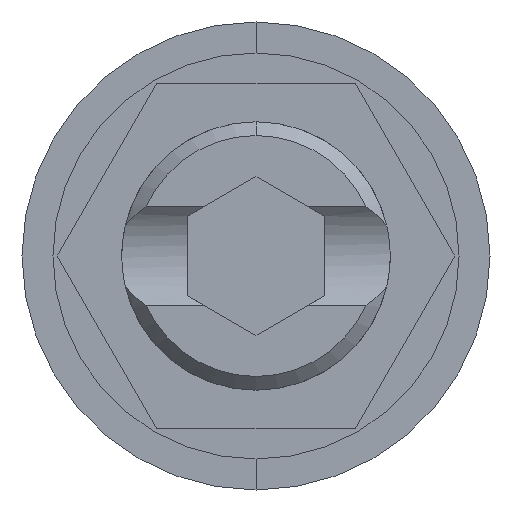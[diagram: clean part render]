
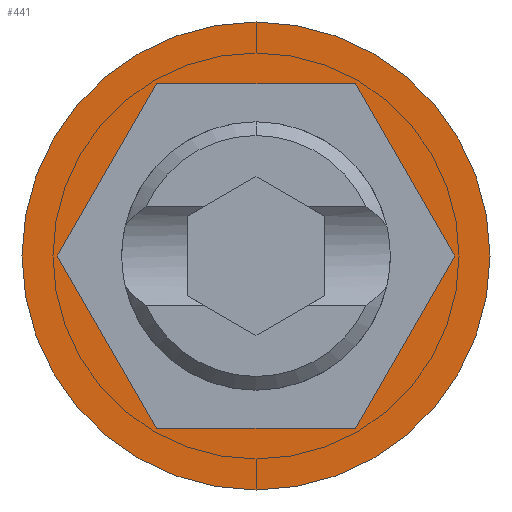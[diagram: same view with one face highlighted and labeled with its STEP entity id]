
A CAD part, front view. The second image highlights one B-rep face of the part: STEP entity #441.
In plain terms, the highlighted planar face has unit normal (0, -1, 0).
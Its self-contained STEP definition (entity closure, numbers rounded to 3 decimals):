
#22 = DIRECTION ( 'NONE',  ( 0., 0., -1. ) ) ;
#49 = VERTEX_POINT ( 'NONE', #1124 ) ;
#83 = CARTESIAN_POINT ( 'NONE',  ( -1.443, 0., 2.5 ) ) ;
#111 = EDGE_CURVE ( 'NONE', #1505, #942, #1648, .T. ) ;
#219 = CARTESIAN_POINT ( 'NONE',  ( 2.887, 0., 0. ) ) ;
#234 = EDGE_CURVE ( 'NONE', #1848, #1552, #1083, .T. ) ;
#246 = VECTOR ( 'NONE', #437, 1000. ) ;
#255 = FACE_OUTER_BOUND ( 'NONE', #480, .T. ) ;
#297 = LINE ( 'NONE', #1690, #1094 ) ;
#322 = CIRCLE ( 'NONE', #1493, 3.4 ) ;
#349 = VECTOR ( 'NONE', #1865, 1000. ) ;
#381 = CIRCLE ( 'NONE', #983, 3.4 ) ;
#382 = ORIENTED_EDGE ( 'NONE', *, *, #712, .T. ) ;
#384 = CARTESIAN_POINT ( 'NONE',  ( 0., 0., -3.4 ) ) ;
#390 = EDGE_LOOP ( 'NONE', ( #631, #1819, #439, #403, #754, #1718 ) ) ;
#403 = ORIENTED_EDGE ( 'NONE', *, *, #1465, .F. ) ;
#437 = DIRECTION ( 'NONE',  ( 0.5, 0., 0.866 ) ) ;
#439 = ORIENTED_EDGE ( 'NONE', *, *, #961, .F. ) ;
#441 = ADVANCED_FACE ( 'NONE', ( #1821, #255 ), #758, .T. ) ;
#480 = EDGE_LOOP ( 'NONE', ( #382, #1375 ) ) ;
#538 = CARTESIAN_POINT ( 'NONE',  ( 1.443, 0., 2.5 ) ) ;
#557 = DIRECTION ( 'NONE',  ( 1., 0., 0. ) ) ;
#631 = ORIENTED_EDGE ( 'NONE', *, *, #1657, .F. ) ;
#638 = LINE ( 'NONE', #1513, #246 ) ;
#659 = DIRECTION ( 'NONE',  ( -1., 0., 0. ) ) ;
#686 = CARTESIAN_POINT ( 'NONE',  ( -1.443, 0., -2.5 ) ) ;
#712 = EDGE_CURVE ( 'NONE', #1575, #49, #322, .T. ) ;
#720 = CARTESIAN_POINT ( 'NONE',  ( -1.443, 0., -2.5 ) ) ;
#735 = VECTOR ( 'NONE', #931, 1000. ) ;
#754 = ORIENTED_EDGE ( 'NONE', *, *, #111, .F. ) ;
#758 = PLANE ( 'NONE',  #1908 ) ;
#767 = DIRECTION ( 'NONE',  ( 0., -1., 0. ) ) ;
#796 = DIRECTION ( 'NONE',  ( 0., -1., 0. ) ) ;
#802 = LINE ( 'NONE', #83, #349 ) ;
#808 = LINE ( 'NONE', #720, #1523 ) ;
#816 = EDGE_CURVE ( 'NONE', #1852, #1505, #638, .T. ) ;
#823 = CARTESIAN_POINT ( 'NONE',  ( 2.887, 0., 0. ) ) ;
#830 = DIRECTION ( 'NONE',  ( -0.5, 0., 0.866 ) ) ;
#931 = DIRECTION ( 'NONE',  ( 0.5, 0., -0.866 ) ) ;
#942 = VERTEX_POINT ( 'NONE', #538 ) ;
#961 = EDGE_CURVE ( 'NONE', #1672, #1848, #802, .T. ) ;
#963 = DIRECTION ( 'NONE',  ( 0., -1., 0. ) ) ;
#983 = AXIS2_PLACEMENT_3D ( 'NONE', #1677, #796, #1823 ) ;
#1018 = CARTESIAN_POINT ( 'NONE',  ( -1.443, 0., 2.5 ) ) ;
#1083 = LINE ( 'NONE', #1810, #735 ) ;
#1094 = VECTOR ( 'NONE', #659, 1000. ) ;
#1124 = CARTESIAN_POINT ( 'NONE',  ( 0., 0., 3.4 ) ) ;
#1260 = VECTOR ( 'NONE', #830, 1000. ) ;
#1375 = ORIENTED_EDGE ( 'NONE', *, *, #1425, .T. ) ;
#1391 = CARTESIAN_POINT ( 'NONE',  ( 0., 0., 0. ) ) ;
#1425 = EDGE_CURVE ( 'NONE', #49, #1575, #381, .T. ) ;
#1465 = EDGE_CURVE ( 'NONE', #942, #1672, #297, .T. ) ;
#1493 = AXIS2_PLACEMENT_3D ( 'NONE', #1792, #767, #1652 ) ;
#1505 = VERTEX_POINT ( 'NONE', #219 ) ;
#1513 = CARTESIAN_POINT ( 'NONE',  ( 1.443, 0., -2.5 ) ) ;
#1523 = VECTOR ( 'NONE', #557, 1000. ) ;
#1552 = VERTEX_POINT ( 'NONE', #686 ) ;
#1575 = VERTEX_POINT ( 'NONE', #384 ) ;
#1587 = CARTESIAN_POINT ( 'NONE',  ( -2.887, 0., 0. ) ) ;
#1648 = LINE ( 'NONE', #823, #1260 ) ;
#1652 = DIRECTION ( 'NONE',  ( 0., 0., -1. ) ) ;
#1657 = EDGE_CURVE ( 'NONE', #1552, #1852, #808, .T. ) ;
#1672 = VERTEX_POINT ( 'NONE', #1018 ) ;
#1677 = CARTESIAN_POINT ( 'NONE',  ( 0., 0., 0. ) ) ;
#1690 = CARTESIAN_POINT ( 'NONE',  ( 1.443, 0., 2.5 ) ) ;
#1718 = ORIENTED_EDGE ( 'NONE', *, *, #816, .F. ) ;
#1733 = CARTESIAN_POINT ( 'NONE',  ( 1.443, 0., -2.5 ) ) ;
#1792 = CARTESIAN_POINT ( 'NONE',  ( 0., 0., 0. ) ) ;
#1810 = CARTESIAN_POINT ( 'NONE',  ( -2.887, 0., 0. ) ) ;
#1819 = ORIENTED_EDGE ( 'NONE', *, *, #234, .F. ) ;
#1821 = FACE_BOUND ( 'NONE', #390, .T. ) ;
#1823 = DIRECTION ( 'NONE',  ( 0., 0., -1. ) ) ;
#1848 = VERTEX_POINT ( 'NONE', #1587 ) ;
#1852 = VERTEX_POINT ( 'NONE', #1733 ) ;
#1865 = DIRECTION ( 'NONE',  ( -0.5, 0., -0.866 ) ) ;
#1908 = AXIS2_PLACEMENT_3D ( 'NONE', #1391, #963, #22 ) ;
